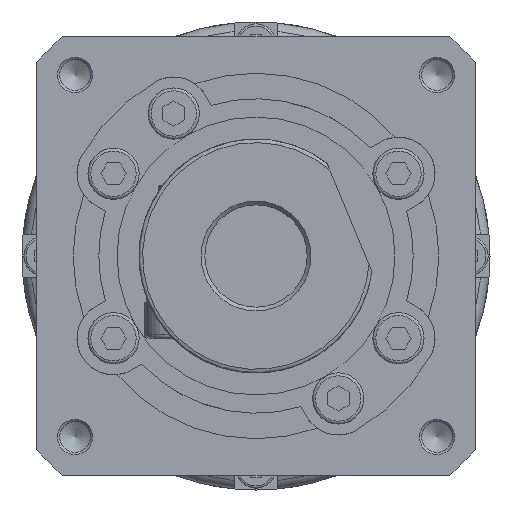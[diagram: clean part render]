
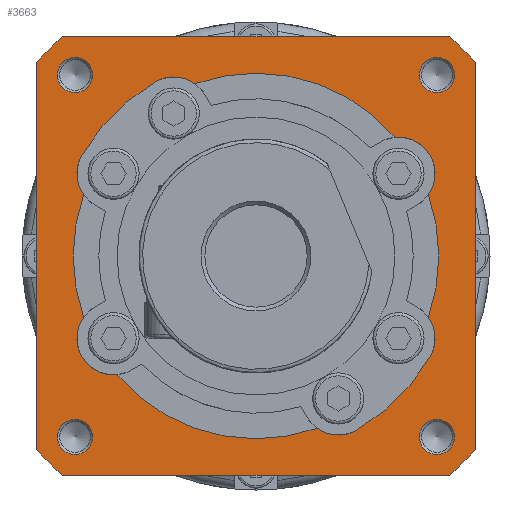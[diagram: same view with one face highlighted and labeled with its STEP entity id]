
A CAD part, left-side view. The second image highlights one B-rep face of the part: STEP entity #3663.
In plain terms, the highlighted planar face has unit normal (-1, 0, 0).
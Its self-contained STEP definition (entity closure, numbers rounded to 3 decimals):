
#2308=LINE('',#10669,#2725);
#2309=LINE('',#10673,#2726);
#2310=LINE('',#10677,#2727);
#2311=LINE('',#10681,#2728);
#2725=VECTOR('',#8598,1.);
#2726=VECTOR('',#8601,1.);
#2727=VECTOR('',#8604,1.);
#2728=VECTOR('',#8607,1.);
#3121=PLANE('',#7641);
#3331=FACE_BOUND('',#4258,.T.);
#3332=FACE_BOUND('',#4259,.T.);
#3333=FACE_BOUND('',#4260,.T.);
#3334=FACE_BOUND('',#4261,.T.);
#3335=FACE_BOUND('',#4262,.T.);
#3336=FACE_BOUND('',#4263,.T.);
#3663=ADVANCED_FACE('',(#3331,#3332,#3333,#3334,#3335,#3336),#3121,.T.);
#4258=EDGE_LOOP('',(#5380));
#4259=EDGE_LOOP('',(#5381));
#4260=EDGE_LOOP('',(#5382));
#4261=EDGE_LOOP('',(#5383));
#4262=EDGE_LOOP('',(#5384,#5385,#5386,#5387,#5388,#5389,#5390,#5391,#5392,
#5393,#5394,#5395));
#4263=EDGE_LOOP('',(#5396,#5397,#5398,#5399,#5400,#5401,#5402,#5403));
#4626=CIRCLE('',#7621,2.4);
#4627=CIRCLE('',#7622,2.4);
#4628=CIRCLE('',#7623,2.4);
#4629=CIRCLE('',#7624,2.4);
#4630=CIRCLE('',#7625,5.);
#4631=CIRCLE('',#7626,25.);
#4632=CIRCLE('',#7627,5.);
#4633=CIRCLE('',#7628,25.);
#4634=CIRCLE('',#7629,5.);
#4635=CIRCLE('',#7630,27.5);
#4636=CIRCLE('',#7631,5.);
#4637=CIRCLE('',#7632,25.);
#4638=CIRCLE('',#7633,5.);
#4639=CIRCLE('',#7634,25.);
#4640=CIRCLE('',#7635,5.);
#4641=CIRCLE('',#7636,27.5);
#4642=CIRCLE('',#7637,40.);
#4643=CIRCLE('',#7638,40.);
#4644=CIRCLE('',#7639,40.);
#4645=CIRCLE('',#7640,40.);
#5380=ORIENTED_EDGE('',*,*,#6978,.T.);
#5381=ORIENTED_EDGE('',*,*,#6979,.T.);
#5382=ORIENTED_EDGE('',*,*,#6980,.T.);
#5383=ORIENTED_EDGE('',*,*,#6981,.T.);
#5384=ORIENTED_EDGE('',*,*,#6982,.F.);
#5385=ORIENTED_EDGE('',*,*,#6983,.T.);
#5386=ORIENTED_EDGE('',*,*,#6984,.F.);
#5387=ORIENTED_EDGE('',*,*,#6985,.T.);
#5388=ORIENTED_EDGE('',*,*,#6986,.F.);
#5389=ORIENTED_EDGE('',*,*,#6987,.F.);
#5390=ORIENTED_EDGE('',*,*,#6988,.F.);
#5391=ORIENTED_EDGE('',*,*,#6989,.T.);
#5392=ORIENTED_EDGE('',*,*,#6990,.F.);
#5393=ORIENTED_EDGE('',*,*,#6991,.T.);
#5394=ORIENTED_EDGE('',*,*,#6992,.F.);
#5395=ORIENTED_EDGE('',*,*,#6993,.F.);
#5396=ORIENTED_EDGE('',*,*,#6994,.T.);
#5397=ORIENTED_EDGE('',*,*,#6995,.T.);
#5398=ORIENTED_EDGE('',*,*,#6996,.T.);
#5399=ORIENTED_EDGE('',*,*,#6997,.T.);
#5400=ORIENTED_EDGE('',*,*,#6998,.T.);
#5401=ORIENTED_EDGE('',*,*,#6999,.T.);
#5402=ORIENTED_EDGE('',*,*,#7000,.T.);
#5403=ORIENTED_EDGE('',*,*,#7001,.T.);
#6387=VERTEX_POINT('',#10635);
#6388=VERTEX_POINT('',#10637);
#6389=VERTEX_POINT('',#10639);
#6390=VERTEX_POINT('',#10641);
#6391=VERTEX_POINT('',#10643);
#6392=VERTEX_POINT('',#10644);
#6393=VERTEX_POINT('',#10646);
#6394=VERTEX_POINT('',#10648);
#6395=VERTEX_POINT('',#10650);
#6396=VERTEX_POINT('',#10652);
#6397=VERTEX_POINT('',#10654);
#6398=VERTEX_POINT('',#10656);
#6399=VERTEX_POINT('',#10658);
#6400=VERTEX_POINT('',#10660);
#6401=VERTEX_POINT('',#10662);
#6402=VERTEX_POINT('',#10664);
#6403=VERTEX_POINT('',#10667);
#6404=VERTEX_POINT('',#10668);
#6405=VERTEX_POINT('',#10670);
#6406=VERTEX_POINT('',#10672);
#6407=VERTEX_POINT('',#10674);
#6408=VERTEX_POINT('',#10676);
#6409=VERTEX_POINT('',#10678);
#6410=VERTEX_POINT('',#10680);
#6978=EDGE_CURVE('',#6387,#6387,#4626,.T.);
#6979=EDGE_CURVE('',#6388,#6388,#4627,.T.);
#6980=EDGE_CURVE('',#6389,#6389,#4628,.T.);
#6981=EDGE_CURVE('',#6390,#6390,#4629,.T.);
#6982=EDGE_CURVE('',#6391,#6392,#4630,.T.);
#6983=EDGE_CURVE('',#6391,#6393,#4631,.T.);
#6984=EDGE_CURVE('',#6394,#6393,#4632,.T.);
#6985=EDGE_CURVE('',#6394,#6395,#4633,.T.);
#6986=EDGE_CURVE('',#6396,#6395,#4634,.T.);
#6987=EDGE_CURVE('',#6397,#6396,#4635,.T.);
#6988=EDGE_CURVE('',#6398,#6397,#4636,.T.);
#6989=EDGE_CURVE('',#6398,#6399,#4637,.T.);
#6990=EDGE_CURVE('',#6400,#6399,#4638,.T.);
#6991=EDGE_CURVE('',#6400,#6401,#4639,.T.);
#6992=EDGE_CURVE('',#6402,#6401,#4640,.T.);
#6993=EDGE_CURVE('',#6392,#6402,#4641,.T.);
#6994=EDGE_CURVE('',#6403,#6404,#4642,.T.);
#6995=EDGE_CURVE('',#6404,#6405,#2308,.T.);
#6996=EDGE_CURVE('',#6405,#6406,#4643,.T.);
#6997=EDGE_CURVE('',#6406,#6407,#2309,.T.);
#6998=EDGE_CURVE('',#6407,#6408,#4644,.T.);
#6999=EDGE_CURVE('',#6408,#6409,#2310,.T.);
#7000=EDGE_CURVE('',#6409,#6410,#4645,.T.);
#7001=EDGE_CURVE('',#6410,#6403,#2311,.T.);
#7621=AXIS2_PLACEMENT_3D('',#10634,#8564,#8565);
#7622=AXIS2_PLACEMENT_3D('',#10636,#8566,#8567);
#7623=AXIS2_PLACEMENT_3D('',#10638,#8568,#8569);
#7624=AXIS2_PLACEMENT_3D('',#10640,#8570,#8571);
#7625=AXIS2_PLACEMENT_3D('',#10642,#8572,#8573);
#7626=AXIS2_PLACEMENT_3D('',#10645,#8574,#8575);
#7627=AXIS2_PLACEMENT_3D('',#10647,#8576,#8577);
#7628=AXIS2_PLACEMENT_3D('',#10649,#8578,#8579);
#7629=AXIS2_PLACEMENT_3D('',#10651,#8580,#8581);
#7630=AXIS2_PLACEMENT_3D('',#10653,#8582,#8583);
#7631=AXIS2_PLACEMENT_3D('',#10655,#8584,#8585);
#7632=AXIS2_PLACEMENT_3D('',#10657,#8586,#8587);
#7633=AXIS2_PLACEMENT_3D('',#10659,#8588,#8589);
#7634=AXIS2_PLACEMENT_3D('',#10661,#8590,#8591);
#7635=AXIS2_PLACEMENT_3D('',#10663,#8592,#8593);
#7636=AXIS2_PLACEMENT_3D('',#10665,#8594,#8595);
#7637=AXIS2_PLACEMENT_3D('',#10666,#8596,#8597);
#7638=AXIS2_PLACEMENT_3D('',#10671,#8599,#8600);
#7639=AXIS2_PLACEMENT_3D('',#10675,#8602,#8603);
#7640=AXIS2_PLACEMENT_3D('',#10679,#8605,#8606);
#7641=AXIS2_PLACEMENT_3D('',#10682,#8608,#8609);
#8564=DIRECTION('',(1.,0.,0.));
#8565=DIRECTION('',(0.,0.,1.));
#8566=DIRECTION('',(1.,0.,0.));
#8567=DIRECTION('',(0.,0.,1.));
#8568=DIRECTION('',(1.,0.,0.));
#8569=DIRECTION('',(0.,0.,1.));
#8570=DIRECTION('',(1.,0.,0.));
#8571=DIRECTION('',(0.,0.,1.));
#8572=DIRECTION('',(-1.,0.,0.));
#8573=DIRECTION('',(0.,0.,-1.));
#8574=DIRECTION('',(1.,0.,0.));
#8575=DIRECTION('',(0.,0.,1.));
#8576=DIRECTION('',(-1.,0.,0.));
#8577=DIRECTION('',(0.,0.,-1.));
#8578=DIRECTION('',(1.,0.,0.));
#8579=DIRECTION('',(0.,0.,1.));
#8580=DIRECTION('',(-1.,0.,0.));
#8581=DIRECTION('',(0.,0.,-1.));
#8582=DIRECTION('',(-1.,0.,0.));
#8583=DIRECTION('',(0.,0.,-1.));
#8584=DIRECTION('',(-1.,0.,0.));
#8585=DIRECTION('',(0.,0.,-1.));
#8586=DIRECTION('',(1.,0.,0.));
#8587=DIRECTION('',(0.,0.,1.));
#8588=DIRECTION('',(-1.,0.,0.));
#8589=DIRECTION('',(0.,0.,-1.));
#8590=DIRECTION('',(1.,0.,0.));
#8591=DIRECTION('',(0.,0.,1.));
#8592=DIRECTION('',(-1.,0.,0.));
#8593=DIRECTION('',(0.,0.,-1.));
#8594=DIRECTION('',(-1.,0.,0.));
#8595=DIRECTION('',(0.,0.,-1.));
#8596=DIRECTION('',(-1.,0.,0.));
#8597=DIRECTION('',(0.,0.,-1.));
#8598=DIRECTION('',(0.,1.,0.));
#8599=DIRECTION('',(-1.,0.,0.));
#8600=DIRECTION('',(0.,0.,-1.));
#8601=DIRECTION('',(0.,0.,-1.));
#8602=DIRECTION('',(-1.,0.,0.));
#8603=DIRECTION('',(0.,0.,-1.));
#8604=DIRECTION('',(0.,-1.,0.));
#8605=DIRECTION('',(-1.,0.,0.));
#8606=DIRECTION('',(0.,0.,-1.));
#8607=DIRECTION('',(0.,0.,1.));
#8608=DIRECTION('',(-1.,0.,0.));
#8609=DIRECTION('',(0.,0.,-1.));
#10634=CARTESIAN_POINT('',(-115.,24.749,-24.749));
#10635=CARTESIAN_POINT('',(-115.,24.749,-22.349));
#10636=CARTESIAN_POINT('',(-115.,24.749,24.749));
#10637=CARTESIAN_POINT('',(-115.,24.749,27.149));
#10638=CARTESIAN_POINT('',(-115.,-24.749,24.749));
#10639=CARTESIAN_POINT('',(-115.,-24.749,27.149));
#10640=CARTESIAN_POINT('',(-115.,-24.749,-24.749));
#10641=CARTESIAN_POINT('',(-115.,-24.749,-22.349));
#10642=CARTESIAN_POINT('',(-115.,11.25,19.486));
#10643=CARTESIAN_POINT('',(-115.,8.355,23.562));
#10644=CARTESIAN_POINT('',(-115.,13.75,23.816));
#10645=CARTESIAN_POINT('',(-115.,0.,0.));
#10646=CARTESIAN_POINT('',(-115.,-19.017,16.228));
#10647=CARTESIAN_POINT('',(-115.,-19.486,11.25));
#10648=CARTESIAN_POINT('',(-115.,-23.562,8.355));
#10649=CARTESIAN_POINT('',(-115.,0.,0.));
#10650=CARTESIAN_POINT('',(-115.,-23.562,-8.355));
#10651=CARTESIAN_POINT('',(-115.,-19.486,-11.25));
#10652=CARTESIAN_POINT('',(-115.,-23.816,-13.75));
#10653=CARTESIAN_POINT('',(-115.,0.,0.));
#10654=CARTESIAN_POINT('',(-115.,-13.75,-23.816));
#10655=CARTESIAN_POINT('',(-115.,-11.25,-19.486));
#10656=CARTESIAN_POINT('',(-115.,-8.355,-23.562));
#10657=CARTESIAN_POINT('',(-115.,0.,0.));
#10658=CARTESIAN_POINT('',(-115.,19.017,-16.228));
#10659=CARTESIAN_POINT('',(-115.,19.486,-11.25));
#10660=CARTESIAN_POINT('',(-115.,23.562,-8.355));
#10661=CARTESIAN_POINT('',(-115.,0.,0.));
#10662=CARTESIAN_POINT('',(-115.,23.562,8.355));
#10663=CARTESIAN_POINT('',(-115.,19.486,11.25));
#10664=CARTESIAN_POINT('',(-115.,23.816,13.75));
#10665=CARTESIAN_POINT('',(-115.,0.,0.));
#10666=CARTESIAN_POINT('',(-115.,0.,0.));
#10667=CARTESIAN_POINT('',(-115.,-30.,26.458));
#10668=CARTESIAN_POINT('',(-115.,-26.458,30.));
#10669=CARTESIAN_POINT('',(-115.,-26.458,30.));
#10670=CARTESIAN_POINT('',(-115.,26.458,30.));
#10671=CARTESIAN_POINT('',(-115.,0.,0.));
#10672=CARTESIAN_POINT('',(-115.,30.,26.458));
#10673=CARTESIAN_POINT('',(-115.,30.,26.458));
#10674=CARTESIAN_POINT('',(-115.,30.,-26.458));
#10675=CARTESIAN_POINT('',(-115.,0.,0.));
#10676=CARTESIAN_POINT('',(-115.,26.458,-30.));
#10677=CARTESIAN_POINT('',(-115.,26.458,-30.));
#10678=CARTESIAN_POINT('',(-115.,-26.458,-30.));
#10679=CARTESIAN_POINT('',(-115.,0.,0.));
#10680=CARTESIAN_POINT('',(-115.,-30.,-26.458));
#10681=CARTESIAN_POINT('',(-115.,-30.,-26.458));
#10682=CARTESIAN_POINT('',(-115.,0.,0.));
